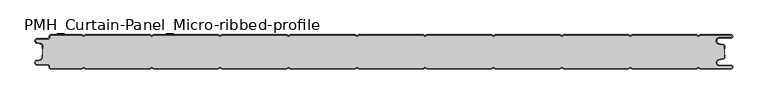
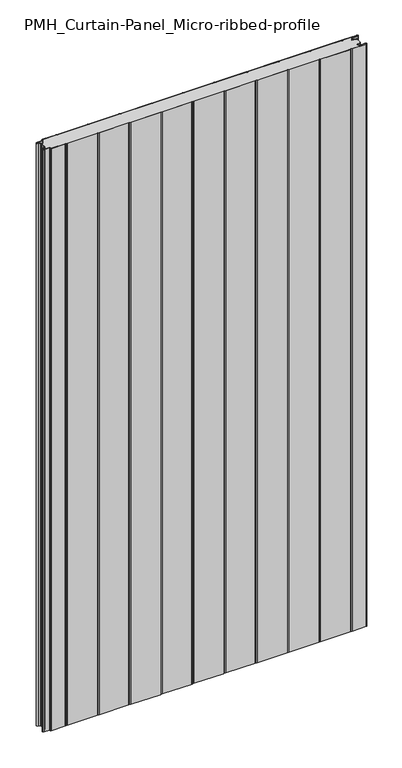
"""IFC4 building model written with IfcOpenShell, lengths in millimetres: plate geometry, PMH_Curtain-Panel_Micro-ribbed-profile : ACH_PMH_Stone-wool-Panel_50M."""

from ifc_helpers import new_model, si_unit, point, frame_2d, origin, origin_with_axes, place, context, project, spatial, polyline, circle_curve, trimmed, segment, composite_curve, outline, extrude, source, transform, mapped, element, save


def pmh_curtain_panel_micro_ribbed_profile_ae988a4b(model_context):
    return source(origin(), model_context, "Body", "SweptSolid", [
        extrude(outline(composite_curve([segment(trimmed(circle_curve(frame_2d((-502.0, -15.878557)), 2.0), [point((-500.0, -15.878557))], [point((-501.5500978, -13.9298169))], True, "CARTESIAN"), True, "CONTINUOUS"), segment(polyline([(-501.5500978, -13.9298169), (-507.7098239, -12.507732)]), True, "CONTINUOUS"), segment(trimmed(circle_curve(frame_2d((-506.9, -9.0)), 3.6), [point((-507.7098239, -12.507732))], [point((-506.9, -5.4))], False, "CARTESIAN"), True, "CONTINUOUS"), segment(polyline([(-506.9, -5.4), (-491.4, -5.4)]), True, "CONTINUOUS"), segment(trimmed(circle_curve(frame_2d((-491.4, -3.4)), 2.0), [point((-491.4, -5.4))], [point((-489.4, -3.4))], True, "CARTESIAN"), True, "CONTINUOUS"), segment(polyline([(-489.4, -3.4), (-489.4, -2.0)]), True, "CONTINUOUS"), segment(trimmed(circle_curve(frame_2d((-487.4, -2.0)), 2.0), [point((-489.4, -2.0))], [point((-487.4, 0.0))], False, "CARTESIAN"), True, "CONTINUOUS"), segment(polyline([(-487.4, 0.0), (-442.0999995, 0.0), (-439.4, -1.5588455), (-436.7000005, 0.0), (-342.0999995, 0.0), (-339.4, -1.5588455), (-336.7000005, 0.0), (-242.0999995, 0.0), (-239.4, -1.5588455), (-236.7000005, 0.0), (-142.0999995, 0.0), (-139.4, -1.5588455), (-136.7000005, 0.0), (-42.0999995, 0.0), (-39.4, -1.5588455), (-36.7000005, 0.0), (57.9000005, 0.0), (60.6, -1.5588455), (63.2999995, 0.0), (157.9000005, 0.0), (160.6, -1.5588455), (163.2999995, 0.0), (257.9000005, 0.0), (260.6, -1.5588455), (263.2999995, 0.0), (357.9000005, 0.0), (360.6, -1.5588455), (363.2999995, 0.0), (457.9000005, 0.0), (460.6, -1.5588455), (463.2999995, 0.0), (508.1, 0.0)]), True, "CONTINUOUS"), segment(trimmed(circle_curve(frame_2d((508.1, -2.5)), 2.5), [point((508.1, 0.0))], [point((508.1, -5.0))], False, "CARTESIAN"), True, "CONTINUOUS"), segment(polyline([(508.1, -5.0), (491.1, -5.0)]), True, "CONTINUOUS"), segment(trimmed(circle_curve(frame_2d((491.1, -9.0)), 4.0), [point((491.1, -5.0))], [point((490.405407, -12.939231))], True, "CARTESIAN"), True, "CONTINUOUS"), segment(polyline([(490.405407, -12.939231), (496.8514855, -14.0758491)]), True, "CONTINUOUS"), segment(trimmed(circle_curve(frame_2d((496.4, -16.6363492)), 2.6), [point((496.8514855, -14.0758491))], [point((499.0, -16.6363492))], False, "CARTESIAN"), True, "CONTINUOUS"), segment(polyline([(499.0, -16.6363492), (499.0, -20.0), (498.2, -20.0), (498.2, -16.6363492)]), True, "CONTINUOUS"), segment(trimmed(circle_curve(frame_2d((496.4, -16.6363492)), 1.8), [point((498.2, -16.6363492))], [point((496.7125669, -14.8636953))], True, "CARTESIAN"), True, "CONTINUOUS"), segment(polyline([(496.7125669, -14.8636953), (490.2664884, -13.7270772)]), True, "CONTINUOUS"), segment(trimmed(circle_curve(frame_2d((491.1, -9.0)), 4.8), [point((490.2664884, -13.7270772))], [point((491.1, -4.2))], False, "CARTESIAN"), True, "CONTINUOUS"), segment(polyline([(491.1, -4.2), (508.1, -4.2)]), True, "CONTINUOUS"), segment(trimmed(circle_curve(frame_2d((508.1, -2.5)), 1.7), [point((508.1, -4.2))], [point((508.1, -0.8))], True, "CARTESIAN"), True, "CONTINUOUS"), segment(polyline([(508.1, -0.8), (463.5143588, -0.8), (460.6, -2.482606), (457.6856412, -0.8), (363.5143588, -0.8), (360.6, -2.482606), (357.6856412, -0.8), (263.5143588, -0.8), (260.6, -2.482606), (257.6856412, -0.8), (163.5143588, -0.8), (160.6, -2.482606), (157.6856412, -0.8), (63.5143588, -0.8), (60.6, -2.482606), (57.6856412, -0.8), (-36.4856412, -0.8), (-39.4, -2.482606), (-42.3143588, -0.8), (-136.4856412, -0.8), (-139.4, -2.482606), (-142.3143588, -0.8), (-236.4856412, -0.8), (-239.4, -2.482606), (-242.3143588, -0.8), (-336.4856412, -0.8), (-339.4, -2.482606), (-342.3143588, -0.8), (-436.4856412, -0.8), (-439.4, -2.482606), (-442.3143588, -0.8), (-487.4, -0.8)]), True, "CONTINUOUS"), segment(trimmed(circle_curve(frame_2d((-487.4, -2.0)), 1.2), [point((-487.4, -0.8))], [point((-488.6, -2.0))], True, "CARTESIAN"), True, "CONTINUOUS"), segment(polyline([(-488.6, -2.0), (-488.6, -3.4)]), True, "CONTINUOUS"), segment(trimmed(circle_curve(frame_2d((-491.4, -3.4)), 2.8), [point((-488.6, -3.4))], [point((-491.4, -6.2))], False, "CARTESIAN"), True, "CONTINUOUS"), segment(polyline([(-491.4, -6.2), (-506.9, -6.2)]), True, "CONTINUOUS"), segment(trimmed(circle_curve(frame_2d((-506.9, -9.0)), 2.8), [point((-506.9, -6.2))], [point((-507.529863, -11.7282362))], True, "CARTESIAN"), True, "CONTINUOUS"), segment(polyline([(-507.529863, -11.7282362), (-501.370137, -13.150321)]), True, "CONTINUOUS"), segment(trimmed(circle_curve(frame_2d((-502.0, -15.878557)), 2.8), [point((-501.370137, -13.150321))], [point((-499.2, -15.878557))], False, "CARTESIAN"), True, "CONTINUOUS"), segment(polyline([(-499.2, -15.878557), (-499.2, -20.0), (-500.0, -20.0), (-500.0, -15.878557)]), True, "CONTINUOUS")], self_intersect=False)), origin_with_axes(), (0.0, 0.0, 1.0), 1945.7507136),
        extrude(outline(composite_curve([segment(polyline([(-499.2, -34.1214426), (-499.2, -15.8785573)]), True, "CONTINUOUS"), segment(trimmed(circle_curve(frame_2d((-502.0, -15.8785573)), 2.8), [point((-499.2, -15.8785573))], [point((-501.370137, -13.1503212))], True, "CARTESIAN"), True, "CONTINUOUS"), segment(polyline([(-501.370137, -13.1503212), (-507.5298631, -11.7282362)]), True, "CONTINUOUS"), segment(trimmed(circle_curve(frame_2d((-506.9, -9.0)), 2.8), [point((-507.5298631, -11.7282362))], [point((-506.9, -6.2))], False, "CARTESIAN"), True, "CONTINUOUS"), segment(polyline([(-506.9, -6.2), (-491.4000001, -6.2)]), True, "CONTINUOUS"), segment(trimmed(circle_curve(frame_2d((-491.4000001, -3.4)), 2.8), [point((-491.4000001, -6.2))], [point((-488.6000001, -3.4))], True, "CARTESIAN"), True, "CONTINUOUS"), segment(polyline([(-488.6000001, -3.4), (-488.6000001, -2.0)]), True, "CONTINUOUS"), segment(trimmed(circle_curve(frame_2d((-487.4000001, -2.0)), 1.2), [point((-488.6000001, -2.0))], [point((-487.4000001, -0.8))], False, "CARTESIAN"), True, "CONTINUOUS"), segment(polyline([(-487.4000001, -0.8), (-442.3143589, -0.8), (-439.4000001, -2.482606), (-436.4856412, -0.8), (-342.3143589, -0.8), (-339.4000001, -2.482606), (-336.4856412, -0.8), (-242.3143589, -0.8), (-239.4000001, -2.482606), (-236.4856412, -0.8), (-142.3143589, -0.8), (-139.4000001, -2.482606), (-136.4856412, -0.8), (-42.3143589, -0.8), (-39.4000001, -2.482606), (-36.4856412, -0.8), (57.6856411, -0.8), (60.5999999, -2.482606), (63.5143588, -0.8), (157.6856411, -0.8), (160.5999999, -2.482606), (163.5143588, -0.8), (257.6856411, -0.8), (260.5999999, -2.482606), (263.5143588, -0.8), (357.6856411, -0.8), (360.5999999, -2.482606), (363.5143588, -0.8), (457.6856411, -0.8), (460.5999999, -2.482606), (463.5143588, -0.8), (508.0999999, -0.8)]), True, "CONTINUOUS"), segment(trimmed(circle_curve(frame_2d((508.0999999, -2.5)), 1.7), [point((508.0999999, -0.8))], [point((508.0999999, -4.2))], False, "CARTESIAN"), True, "CONTINUOUS"), segment(polyline([(508.0999999, -4.2), (491.0999999, -4.2)]), True, "CONTINUOUS"), segment(trimmed(circle_curve(frame_2d((491.0999999, -9.0)), 4.8), [point((491.0999999, -4.2))], [point((490.2664883, -13.7270771))], True, "CARTESIAN"), True, "CONTINUOUS"), segment(polyline([(490.2664883, -13.7270771), (496.7125668, -14.8636953)]), True, "CONTINUOUS"), segment(trimmed(circle_curve(frame_2d((496.3999999, -16.6363492)), 1.8), [point((496.7125668, -14.8636953))], [point((498.1999999, -16.6363492))], False, "CARTESIAN"), True, "CONTINUOUS"), segment(polyline([(498.1999999, -16.6363492), (498.1999999, -33.3636508)]), True, "CONTINUOUS"), segment(trimmed(circle_curve(frame_2d((496.3999999, -33.3636508)), 1.8), [point((498.1999999, -33.3636508))], [point((496.7125668, -35.1363047))], False, "CARTESIAN"), True, "CONTINUOUS"), segment(polyline([(496.7125668, -35.1363047), (490.2664883, -36.2729229)]), True, "CONTINUOUS"), segment(trimmed(circle_curve(frame_2d((491.0999999, -41.0)), 4.8), [point((490.2664883, -36.2729229))], [point((491.0999999, -45.8))], True, "CARTESIAN"), True, "CONTINUOUS"), segment(polyline([(491.0999999, -45.8), (508.0999999, -45.8)]), True, "CONTINUOUS"), segment(trimmed(circle_curve(frame_2d((508.0999999, -47.5)), 1.7), [point((508.0999999, -45.8))], [point((508.0999999, -49.2))], False, "CARTESIAN"), True, "CONTINUOUS"), segment(polyline([(508.0999999, -49.2), (463.5143588, -49.2), (460.5999999, -47.517394), (457.6856411, -49.2), (363.5143588, -49.2), (360.5999999, -47.517394), (357.6856411, -49.2), (263.5143588, -49.2), (260.5999999, -47.517394), (257.6856411, -49.2), (163.5143588, -49.2), (160.5999999, -47.517394), (157.6856411, -49.2), (63.5143588, -49.2), (60.5999999, -47.517394), (57.6856411, -49.2), (-36.4856412, -49.2), (-39.4000001, -47.517394), (-42.3143589, -49.2), (-136.4856412, -49.2), (-139.4000001, -47.517394), (-142.3143589, -49.2), (-236.4856412, -49.2), (-239.4000001, -47.517394), (-242.3143589, -49.2), (-336.4856412, -49.2), (-339.4000001, -47.517394), (-342.3143589, -49.2), (-436.4856412, -49.2), (-439.4000001, -47.517394), (-442.3143589, -49.2), (-487.4000001, -49.2)]), True, "CONTINUOUS"), segment(trimmed(circle_curve(frame_2d((-487.4000001, -48.0)), 1.2), [point((-487.4000001, -49.2))], [point((-488.6000001, -48.0))], False, "CARTESIAN"), True, "CONTINUOUS"), segment(polyline([(-488.6000001, -48.0), (-488.6000001, -46.6)]), True, "CONTINUOUS"), segment(trimmed(circle_curve(frame_2d((-491.4000001, -46.6)), 2.8), [point((-488.6000001, -46.6))], [point((-491.4000001, -43.8))], True, "CARTESIAN"), True, "CONTINUOUS"), segment(polyline([(-491.4000001, -43.8), (-506.9, -43.8)]), True, "CONTINUOUS"), segment(trimmed(circle_curve(frame_2d((-506.9, -41.0)), 2.8), [point((-506.9, -43.8))], [point((-507.5298631, -38.2717638))], False, "CARTESIAN"), True, "CONTINUOUS"), segment(polyline([(-507.5298631, -38.2717638), (-501.370137, -36.8496788)]), True, "CONTINUOUS"), segment(trimmed(circle_curve(frame_2d((-502.0, -34.1214426)), 2.8), [point((-501.370137, -36.8496788))], [point((-499.2, -34.1214426))], True, "CARTESIAN"), True, "CONTINUOUS")], self_intersect=False)), origin_with_axes(), (0.0, 0.0, 1.0), 1945.7507136),
        extrude(outline(composite_curve([segment(polyline([(-500.0, -34.121443), (-500.0, -30.0), (-499.2, -30.0), (-499.2, -34.121443)]), True, "CONTINUOUS"), segment(trimmed(circle_curve(frame_2d((-502.0, -34.121443)), 2.8), [point((-499.2, -34.121443))], [point((-501.370137, -36.8496792))], False, "CARTESIAN"), True, "CONTINUOUS"), segment(polyline([(-501.370137, -36.8496792), (-507.529863, -38.271764)]), True, "CONTINUOUS"), segment(trimmed(circle_curve(frame_2d((-506.9, -41.0)), 2.8), [point((-507.529863, -38.271764))], [point((-506.9, -43.8))], True, "CARTESIAN"), True, "CONTINUOUS"), segment(polyline([(-506.9, -43.8), (-491.4, -43.8)]), True, "CONTINUOUS"), segment(trimmed(circle_curve(frame_2d((-491.4, -46.6)), 2.8), [point((-491.4, -43.8))], [point((-488.6, -46.6))], False, "CARTESIAN"), True, "CONTINUOUS"), segment(polyline([(-488.6, -46.6), (-488.6, -48.0)]), True, "CONTINUOUS"), segment(trimmed(circle_curve(frame_2d((-487.4, -48.0)), 1.2), [point((-488.6, -48.0))], [point((-487.4, -49.2))], True, "CARTESIAN"), True, "CONTINUOUS"), segment(polyline([(-487.4, -49.2), (-442.3143588, -49.2), (-439.4, -47.517394), (-436.4856412, -49.2), (-342.3143588, -49.2), (-339.4, -47.517394), (-336.4856412, -49.2), (-242.3143588, -49.2), (-239.4, -47.517394), (-236.4856412, -49.2), (-142.3143588, -49.2), (-139.4, -47.517394), (-136.4856412, -49.2), (-42.3143588, -49.2), (-39.4, -47.517394), (-36.4856412, -49.2), (57.6856412, -49.2), (60.6, -47.517394), (63.5143588, -49.2), (157.6856412, -49.2), (160.6, -47.517394), (163.5143588, -49.2), (257.6856412, -49.2), (260.6, -47.517394), (263.5143588, -49.2), (357.6856412, -49.2), (360.6, -47.517394), (363.5143588, -49.2), (457.6856412, -49.2), (460.6, -47.517394), (463.5143588, -49.2), (508.1, -49.2)]), True, "CONTINUOUS"), segment(trimmed(circle_curve(frame_2d((508.1, -47.5)), 1.7), [point((508.1, -49.2))], [point((508.1, -45.8))], True, "CARTESIAN"), True, "CONTINUOUS"), segment(polyline([(508.1, -45.8), (491.1, -45.8)]), True, "CONTINUOUS"), segment(trimmed(circle_curve(frame_2d((491.1, -41.0)), 4.8), [point((491.1, -45.8))], [point((490.2664884, -36.2729229))], False, "CARTESIAN"), True, "CONTINUOUS"), segment(polyline([(490.2664884, -36.2729229), (496.7125669, -35.1363047)]), True, "CONTINUOUS"), segment(trimmed(circle_curve(frame_2d((496.4, -33.3636508)), 1.8), [point((496.7125669, -35.1363047))], [point((498.2, -33.3636508))], True, "CARTESIAN"), True, "CONTINUOUS"), segment(polyline([(498.2, -33.3636508), (498.2, -30.0), (499.0, -30.0), (499.0, -33.3636508)]), True, "CONTINUOUS"), segment(trimmed(circle_curve(frame_2d((496.4, -33.3636508)), 2.6), [point((499.0, -33.3636508))], [point((496.8514855, -35.9241509))], False, "CARTESIAN"), True, "CONTINUOUS"), segment(polyline([(496.8514855, -35.9241509), (490.405407, -37.060769)]), True, "CONTINUOUS"), segment(trimmed(circle_curve(frame_2d((491.1, -41.0)), 4.0), [point((490.405407, -37.060769))], [point((491.1, -45.0))], True, "CARTESIAN"), True, "CONTINUOUS"), segment(polyline([(491.1, -45.0), (508.1, -45.0)]), True, "CONTINUOUS"), segment(trimmed(circle_curve(frame_2d((508.1, -47.5)), 2.5), [point((508.1, -45.0))], [point((508.1, -50.0))], False, "CARTESIAN"), True, "CONTINUOUS"), segment(polyline([(508.1, -50.0), (463.2999995, -50.0), (460.6, -48.4411545), (457.9000005, -50.0), (363.2999995, -50.0), (360.6, -48.4411545), (357.9000005, -50.0), (263.2999995, -50.0), (260.6, -48.4411545), (257.9000005, -50.0), (163.2999995, -50.0), (160.6, -48.4411545), (157.9000005, -50.0), (63.2999995, -50.0), (60.6, -48.4411545), (57.9000005, -50.0), (-36.7000005, -50.0), (-39.4, -48.4411545), (-42.0999995, -50.0), (-136.7000005, -50.0), (-139.4, -48.4411545), (-142.0999995, -50.0), (-236.7000005, -50.0), (-239.4, -48.4411545), (-242.0999995, -50.0), (-336.7000005, -50.0), (-339.4, -48.4411545), (-342.0999995, -50.0), (-436.7000005, -50.0), (-439.4, -48.4411545), (-442.0999995, -50.0), (-487.4, -50.0)]), True, "CONTINUOUS"), segment(trimmed(circle_curve(frame_2d((-487.4, -48.0)), 2.0), [point((-487.4, -50.0))], [point((-489.4, -48.0))], False, "CARTESIAN"), True, "CONTINUOUS"), segment(polyline([(-489.4, -48.0), (-489.4, -46.6)]), True, "CONTINUOUS"), segment(trimmed(circle_curve(frame_2d((-491.4, -46.6)), 2.0), [point((-489.4, -46.6))], [point((-491.4, -44.6))], True, "CARTESIAN"), True, "CONTINUOUS"), segment(polyline([(-491.4, -44.6), (-506.9, -44.6)]), True, "CONTINUOUS"), segment(trimmed(circle_curve(frame_2d((-506.9, -41.0)), 3.6), [point((-506.9, -44.6))], [point((-507.7098239, -37.4922678))], False, "CARTESIAN"), True, "CONTINUOUS"), segment(polyline([(-507.7098239, -37.4922678), (-501.5500979, -36.070183)]), True, "CONTINUOUS"), segment(trimmed(circle_curve(frame_2d((-502.0, -34.121443)), 2.0), [point((-501.5500979, -36.070183))], [point((-500.0, -34.121443))], True, "CARTESIAN"), True, "CONTINUOUS")], self_intersect=False)), origin_with_axes(), (0.0, 0.0, 1.0), 1945.7507136),
    ])


if __name__ == "__main__":
    model = new_model("IFC4")
    model_context = context("Model", 3, world=origin())
    ifc_project = project(units=[si_unit("LENGTHUNIT", "METRE", prefix="MILLI")], contexts=[model_context])
    site = spatial("IfcSite", under=ifc_project)
    building = spatial("IfcBuilding", under=site)
    placement = place(None, origin())
    pmh_curtain_panel_micro_ribbed_profile_shape = pmh_curtain_panel_micro_ribbed_profile_ae988a4b(model_context)
    element("IfcPlate", 1, ObjectType="PMH_Curtain-Panel_Micro-ribbed-profile : ACH_PMH_Stone-wool-Panel_50M", at=placement, inside=building, context=model_context, shape_type="MappedRepresentation", body=[
        mapped(pmh_curtain_panel_micro_ribbed_profile_shape, transform((0.0, 0.0, 0.0), x_axis=(1.0, 0.0, 0.0), y_axis=(0.0, 1.0, 0.0), z_axis=(0.0, 0.0, 1.0))),
    ])
    save(model, "model.ifc")
